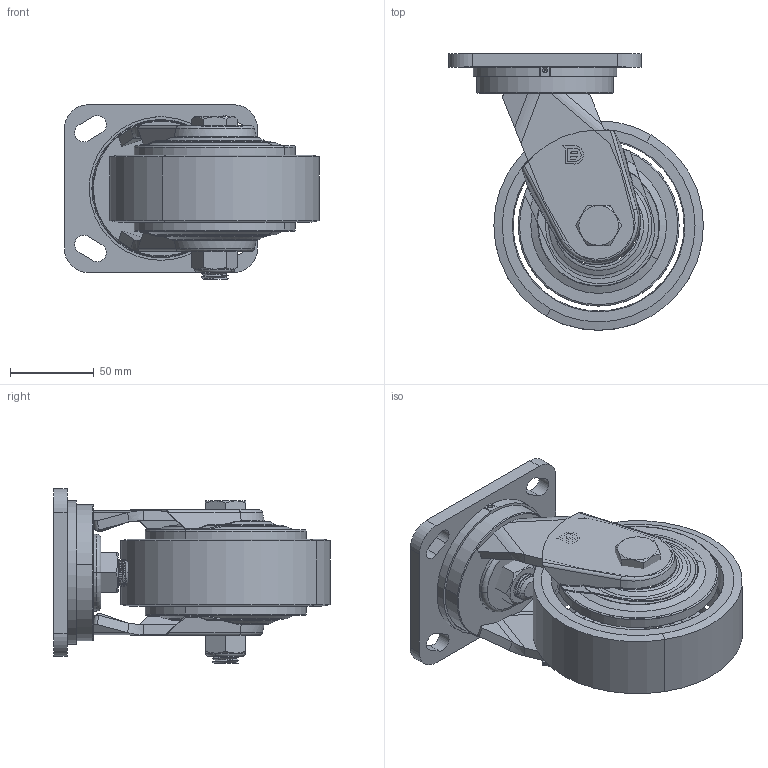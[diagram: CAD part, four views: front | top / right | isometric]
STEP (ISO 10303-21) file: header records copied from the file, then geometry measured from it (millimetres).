
FILE_DESCRIPTION((''),'2;1');
FILE_NAME('PRT0004','2025-04-24T08:31:10',('Administrator'),(''),'CREO PARAMETRIC BY PTC INC, 2024325','CREO PARAMETRIC BY PTC INC, 2024325','');
FILE_SCHEMA(('CONFIG_CONTROL_DESIGN','GEOMETRIC_VALIDATION_PROPERTIES_MIM'));
Length unit declared in the file: millimetre
Products named in the file (1): PRT0004
Bounding box: 152 x 165 x 104 mm (x, y, z)
Surface area: 123122.5 mm2 (no closed solid volume)
Topology: 0 solids, 24 shells, 230 faces, 784 edges, 578 vertices
Faces by surface type: plane 96, cylinder 57, cone 41, torus 24, bspline 12
Entity records: 12298 total; most frequent: CARTESIAN_POINT 4254, DIRECTION 1240, ORIENTED_EDGE 1191, EDGE_CURVE 784, VERTEX_POINT 578, AXIS2_PLACEMENT_3D 463, VECTOR 314, LINE 314
